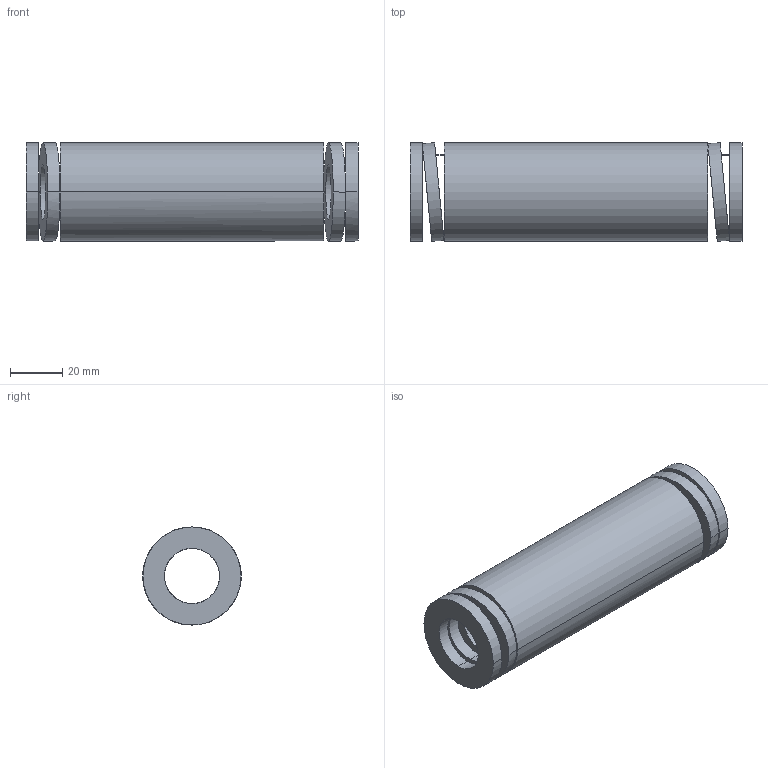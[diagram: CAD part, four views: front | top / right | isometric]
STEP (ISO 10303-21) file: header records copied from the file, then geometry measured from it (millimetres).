
FILE_DESCRIPTION(('CATIA V5 STEP Exchange'),'2;1');
FILE_NAME('C:\Users\Utente\Desktop\IO LAVORO\3D X SITO CF\X SITO\3D files 392B\392-B40-127.stp','2021-08-13T11:16:25+00:00',('none'),('none'),'CATIA Version 5 Release 20 GA (IN-10)','CATIA V5 STEP AP203','none');
FILE_SCHEMA(('CONFIG_CONTROL_DESIGN'));
Length unit declared in the file: millimetre
Products named in the file (1): 392-B40-127
Bounding box: 127 x 37.78 x 37.5 mm (x, y, z)
Volume: 90259.1 mm3; surface area: 29566.8 mm2
Topology: 1 solids, 1 shells, 38 faces, 92 edges, 64 vertices
Faces by surface type: cylinder 28, plane 10
Entity records: 1626 total; most frequent: CARTESIAN_POINT 747, ORIENTED_EDGE 184, DIRECTION 124, EDGE_CURVE 92, VERTEX_POINT 64, AXIS2_PLACEMENT_3D 59, EDGE_LOOP 56, B_SPLINE_CURVE_WITH_KNOTS 44
